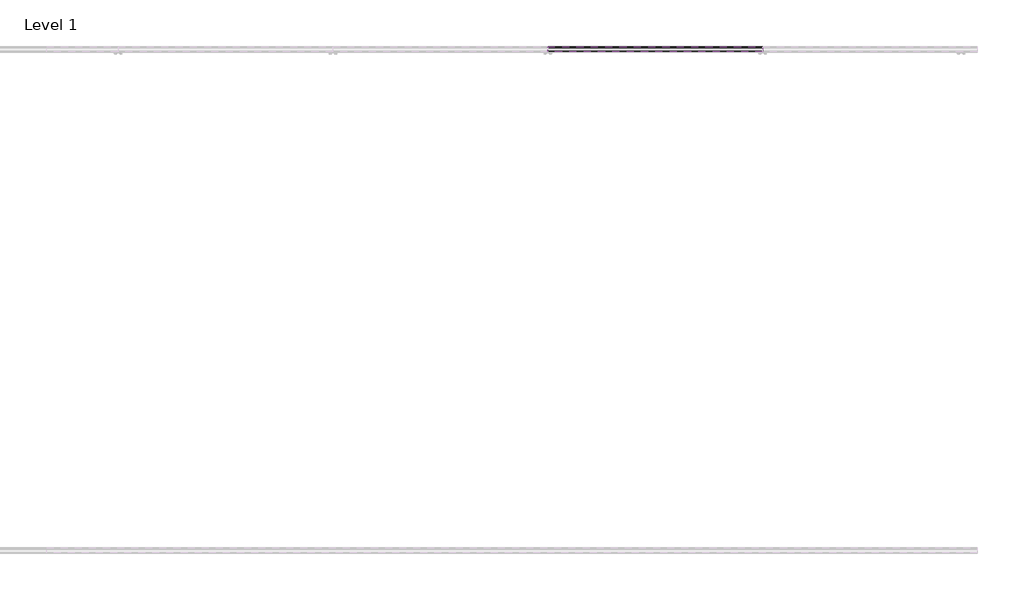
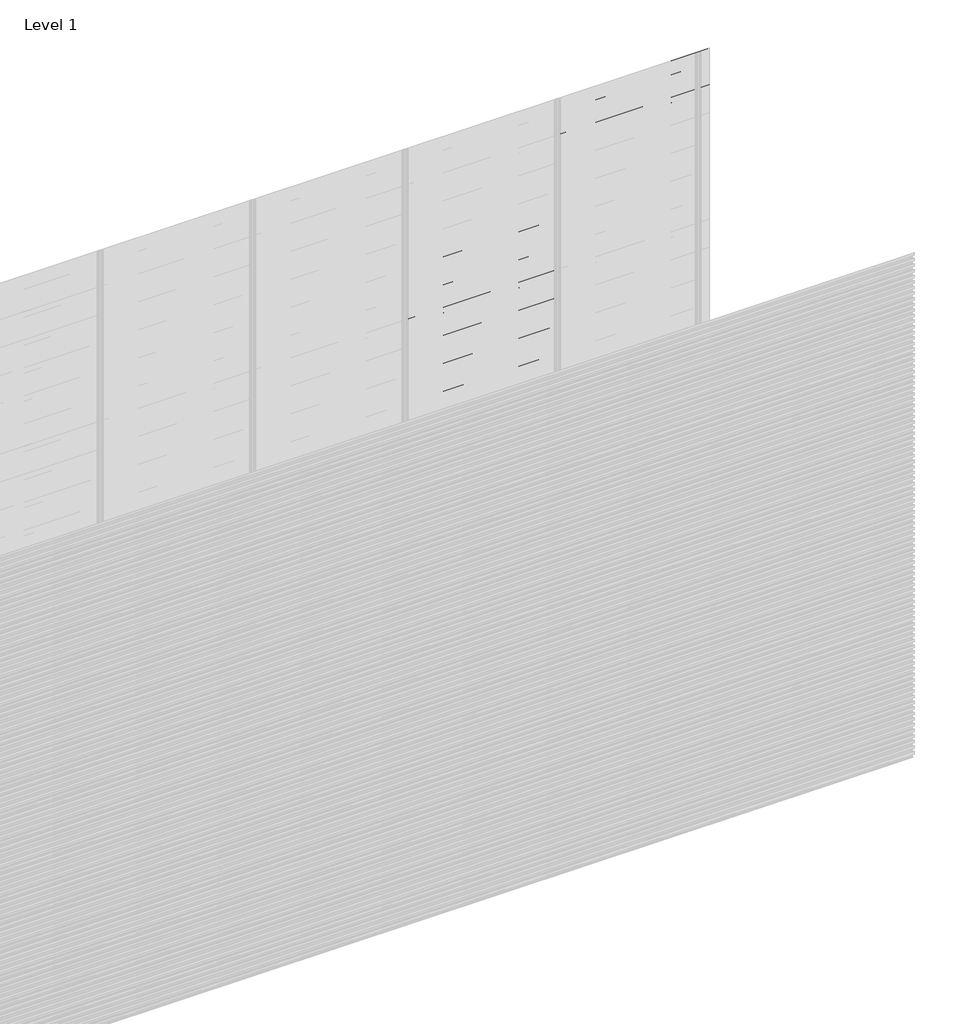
# One storey, part 95 of 96: 82 proxies.
"""IFC4 building model written with IfcOpenShell, lengths in millimetres."""

from ifc_helpers import new_model, si_unit, frame, origin, place, context, project, spatial, polyline, outline, extrude, element, save

model = new_model("IFC4")

# Units and contexts
model_context = context("Model", 3, world=origin())
ifc_project = project(units=[si_unit("LENGTHUNIT", "METRE", prefix="MILLI")], contexts=[model_context])

# Site, building, storey
site = spatial("IfcSite", under=ifc_project)
building = spatial("IfcBuilding", under=site)
storey = spatial("IfcBuildingStorey", under=building, Name="Level 1", Elevation=0.0)

# Proxies
placement = place(None, origin())
element("IfcBuildingElementProxy", 1, Name="Wall Sweeps", at=placement, inside=storey, context=model_context, shape_type="SweptSolid", body=[
    extrude(outline(polyline([(22.4, 2372.3655033), (22.4, 2358.0779188), (17.5885035, 2355.3), (17.5885035, 2356.5701706), (21.15, 2358.6264016), (21.15, 2371.6437382), (2.0, 2382.7000799), (2.0, 2397.6), (3.25, 2397.6), (3.25, 2383.4217609), (22.4, 2372.3655033)])), frame((4285.7142857, 0.0, 0.0), z_axis=(1.0, 0.0, 0.0), x_axis=(0.0, 1.0, 0.0)), (0.0, 0.0, 1.0), 857.1428571),
])
element("IfcBuildingElementProxy", 2, Name="Wall Sweeps", at=placement, inside=storey, context=model_context, shape_type="SweptSolid", body=[
    extrude(outline(polyline([(22.4, 2339.0655033), (22.4, 2324.7779188), (17.5885035, 2322.0), (17.5885035, 2323.2701706), (21.15, 2325.3264016), (21.15, 2338.3437382), (2.0, 2349.4000799), (2.0, 2364.3), (3.25, 2364.3), (3.25, 2350.1217609), (22.4, 2339.0655033)])), frame((4285.7142857, 0.0, 0.0), z_axis=(1.0, 0.0, 0.0), x_axis=(0.0, 1.0, 0.0)), (0.0, 0.0, 1.0), 857.1428571),
])
element("IfcBuildingElementProxy", 3, Name="Wall Sweeps", at=placement, inside=storey, context=model_context, shape_type="SweptSolid", body=[
    extrude(outline(polyline([(22.4, 2305.7655033), (22.4, 2291.4779188), (17.5885035, 2288.7), (17.5885035, 2289.9701706), (21.15, 2292.0264016), (21.15, 2305.0437382), (2.0, 2316.1000799), (2.0, 2331.0), (3.25, 2331.0), (3.25, 2316.8217609), (22.4, 2305.7655033)])), frame((4285.7142857, 0.0, 0.0), z_axis=(1.0, 0.0, 0.0), x_axis=(0.0, 1.0, 0.0)), (0.0, 0.0, 1.0), 857.1428571),
])
element("IfcBuildingElementProxy", 4, Name="Wall Sweeps", at=placement, inside=storey, context=model_context, shape_type="SweptSolid", body=[
    extrude(outline(polyline([(22.4, 2272.4655033), (22.4, 2258.1779188), (17.5885035, 2255.4), (17.5885035, 2256.6701706), (21.15, 2258.7264016), (21.15, 2271.7437382), (2.0, 2282.8000799), (2.0, 2297.7), (3.25, 2297.7), (3.25, 2283.5217609), (22.4, 2272.4655033)])), frame((4285.7142857, 0.0, 0.0), z_axis=(1.0, 0.0, 0.0), x_axis=(0.0, 1.0, 0.0)), (0.0, 0.0, 1.0), 857.1428571),
])
element("IfcBuildingElementProxy", 5, Name="Wall Sweeps", at=placement, inside=storey, context=model_context, shape_type="SweptSolid", body=[
    extrude(outline(polyline([(22.4, 2239.1655033), (22.4, 2224.8779188), (17.5885035, 2222.1), (17.5885035, 2223.3701706), (21.15, 2225.4264016), (21.15, 2238.4437382), (2.0, 2249.5000799), (2.0, 2264.4), (3.25, 2264.4), (3.25, 2250.2217609), (22.4, 2239.1655033)])), frame((4285.7142857, 0.0, 0.0), z_axis=(1.0, 0.0, 0.0), x_axis=(0.0, 1.0, 0.0)), (0.0, 0.0, 1.0), 857.1428571),
])
element("IfcBuildingElementProxy", 6, Name="Wall Sweeps", at=placement, inside=storey, context=model_context, shape_type="SweptSolid", body=[
    extrude(outline(polyline([(22.4, 2205.8655033), (22.4, 2191.5779188), (17.5885035, 2188.8), (17.5885035, 2190.0701706), (21.15, 2192.1264016), (21.15, 2205.1437382), (2.0, 2216.2000799), (2.0, 2231.1), (3.25, 2231.1), (3.25, 2216.9217609), (22.4, 2205.8655033)])), frame((4285.7142857, 0.0, 0.0), z_axis=(1.0, 0.0, 0.0), x_axis=(0.0, 1.0, 0.0)), (0.0, 0.0, 1.0), 857.1428571),
])
element("IfcBuildingElementProxy", 7, Name="Wall Sweeps", at=placement, inside=storey, context=model_context, shape_type="SweptSolid", body=[
    extrude(outline(polyline([(22.4, 2172.5655033), (22.4, 2158.2779188), (17.5885035, 2155.5), (17.5885035, 2156.7701706), (21.15, 2158.8264016), (21.15, 2171.8437382), (2.0, 2182.9000799), (2.0, 2197.8), (3.25, 2197.8), (3.25, 2183.6217609), (22.4, 2172.5655033)])), frame((4285.7142857, 0.0, 0.0), z_axis=(1.0, 0.0, 0.0), x_axis=(0.0, 1.0, 0.0)), (0.0, 0.0, 1.0), 857.1428571),
])
element("IfcBuildingElementProxy", 8, Name="Wall Sweeps", at=placement, inside=storey, context=model_context, shape_type="SweptSolid", body=[
    extrude(outline(polyline([(22.4, 2139.2655033), (22.4, 2124.9779188), (17.5885035, 2122.2), (17.5885035, 2123.4701706), (21.15, 2125.5264016), (21.15, 2138.5437382), (2.0, 2149.6000799), (2.0, 2164.5), (3.25, 2164.5), (3.25, 2150.3217609), (22.4, 2139.2655033)])), frame((4285.7142857, 0.0, 0.0), z_axis=(1.0, 0.0, 0.0), x_axis=(0.0, 1.0, 0.0)), (0.0, 0.0, 1.0), 857.1428571),
])
element("IfcBuildingElementProxy", 9, Name="Wall Sweeps", at=placement, inside=storey, context=model_context, shape_type="SweptSolid", body=[
    extrude(outline(polyline([(22.4, 2105.9655033), (22.4, 2091.6779188), (17.5885035, 2088.9), (17.5885035, 2090.1701706), (21.15, 2092.2264016), (21.15, 2105.2437382), (2.0, 2116.3000799), (2.0, 2131.2), (3.25, 2131.2), (3.25, 2117.0217609), (22.4, 2105.9655033)])), frame((4285.7142857, 0.0, 0.0), z_axis=(1.0, 0.0, 0.0), x_axis=(0.0, 1.0, 0.0)), (0.0, 0.0, 1.0), 857.1428571),
])
element("IfcBuildingElementProxy", 10, Name="Wall Sweeps", at=placement, inside=storey, context=model_context, shape_type="SweptSolid", body=[
    extrude(outline(polyline([(22.4, 2072.6655033), (22.4, 2058.3779188), (17.5885035, 2055.6), (17.5885035, 2056.8701706), (21.15, 2058.9264016), (21.15, 2071.9437382), (2.0, 2083.0000799), (2.0, 2097.9), (3.25, 2097.9), (3.25, 2083.7217609), (22.4, 2072.6655033)])), frame((4285.7142857, 0.0, 0.0), z_axis=(1.0, 0.0, 0.0), x_axis=(0.0, 1.0, 0.0)), (0.0, 0.0, 1.0), 857.1428571),
])
element("IfcBuildingElementProxy", 11, Name="Wall Sweeps", at=placement, inside=storey, context=model_context, shape_type="SweptSolid", body=[
    extrude(outline(polyline([(22.4, 2039.3655033), (22.4, 2025.0779188), (17.5885035, 2022.3), (17.5885035, 2023.5701706), (21.15, 2025.6264016), (21.15, 2038.6437382), (2.0, 2049.7000799), (2.0, 2064.6), (3.25, 2064.6), (3.25, 2050.4217609), (22.4, 2039.3655033)])), frame((4285.7142857, 0.0, 0.0), z_axis=(1.0, 0.0, 0.0), x_axis=(0.0, 1.0, 0.0)), (0.0, 0.0, 1.0), 857.1428571),
])
element("IfcBuildingElementProxy", 12, Name="Wall Sweeps", at=placement, inside=storey, context=model_context, shape_type="SweptSolid", body=[
    extrude(outline(polyline([(22.4, 2006.0655033), (22.4, 1991.7779188), (17.5885035, 1989.0), (17.5885035, 1990.2701706), (21.15, 1992.3264016), (21.15, 2005.3437382), (2.0, 2016.4000799), (2.0, 2031.3), (3.25, 2031.3), (3.25, 2017.1217609), (22.4, 2006.0655033)])), frame((4285.7142857, 0.0, 0.0), z_axis=(1.0, 0.0, 0.0), x_axis=(0.0, 1.0, 0.0)), (0.0, 0.0, 1.0), 857.1428571),
])
element("IfcBuildingElementProxy", 13, Name="Wall Sweeps", at=placement, inside=storey, context=model_context, shape_type="SweptSolid", body=[
    extrude(outline(polyline([(22.4, 1972.7655033), (22.4, 1958.4779188), (17.5885035, 1955.7), (17.5885035, 1956.9701706), (21.15, 1959.0264016), (21.15, 1972.0437382), (2.0, 1983.1000799), (2.0, 1998.0), (3.25, 1998.0), (3.25, 1983.8217609), (22.4, 1972.7655033)])), frame((4285.7142857, 0.0, 0.0), z_axis=(1.0, 0.0, 0.0), x_axis=(0.0, 1.0, 0.0)), (0.0, 0.0, 1.0), 857.1428571),
])
element("IfcBuildingElementProxy", 14, Name="Wall Sweeps", at=placement, inside=storey, context=model_context, shape_type="SweptSolid", body=[
    extrude(outline(polyline([(22.4, 1939.4655033), (22.4, 1925.1779188), (17.5885035, 1922.4), (17.5885035, 1923.6701706), (21.15, 1925.7264016), (21.15, 1938.7437382), (2.0, 1949.8000799), (2.0, 1964.7), (3.25, 1964.7), (3.25, 1950.5217609), (22.4, 1939.4655033)])), frame((4285.7142857, 0.0, 0.0), z_axis=(1.0, 0.0, 0.0), x_axis=(0.0, 1.0, 0.0)), (0.0, 0.0, 1.0), 857.1428571),
])
element("IfcBuildingElementProxy", 15, Name="Wall Sweeps", at=placement, inside=storey, context=model_context, shape_type="SweptSolid", body=[
    extrude(outline(polyline([(22.4, 1906.1655033), (22.4, 1891.8779188), (17.5885035, 1889.1), (17.5885035, 1890.3701706), (21.15, 1892.4264016), (21.15, 1905.4437382), (2.0, 1916.5000799), (2.0, 1931.4), (3.25, 1931.4), (3.25, 1917.2217609), (22.4, 1906.1655033)])), frame((4285.7142857, 0.0, 0.0), z_axis=(1.0, 0.0, 0.0), x_axis=(0.0, 1.0, 0.0)), (0.0, 0.0, 1.0), 857.1428571),
])
element("IfcBuildingElementProxy", 16, Name="Wall Sweeps", at=placement, inside=storey, context=model_context, shape_type="SweptSolid", body=[
    extrude(outline(polyline([(22.4, 1872.8655033), (22.4, 1858.5779188), (17.5885035, 1855.8), (17.5885035, 1857.0701706), (21.15, 1859.1264016), (21.15, 1872.1437382), (2.0, 1883.2000799), (2.0, 1898.1), (3.25, 1898.1), (3.25, 1883.9217609), (22.4, 1872.8655033)])), frame((4285.7142857, 0.0, 0.0), z_axis=(1.0, 0.0, 0.0), x_axis=(0.0, 1.0, 0.0)), (0.0, 0.0, 1.0), 857.1428571),
])
element("IfcBuildingElementProxy", 17, Name="Wall Sweeps", at=placement, inside=storey, context=model_context, shape_type="SweptSolid", body=[
    extrude(outline(polyline([(22.4, 1839.5655033), (22.4, 1825.2779188), (17.5885035, 1822.5), (17.5885035, 1823.7701706), (21.15, 1825.8264016), (21.15, 1838.8437382), (2.0, 1849.9000799), (2.0, 1864.8), (3.25, 1864.8), (3.25, 1850.6217609), (22.4, 1839.5655033)])), frame((4285.7142857, 0.0, 0.0), z_axis=(1.0, 0.0, 0.0), x_axis=(0.0, 1.0, 0.0)), (0.0, 0.0, 1.0), 857.1428571),
])
element("IfcBuildingElementProxy", 18, Name="Wall Sweeps", at=placement, inside=storey, context=model_context, shape_type="SweptSolid", body=[
    extrude(outline(polyline([(22.4, 1806.2655033), (22.4, 1791.9779188), (17.5885035, 1789.2), (17.5885035, 1790.4701706), (21.15, 1792.5264016), (21.15, 1805.5437382), (2.0, 1816.6000799), (2.0, 1831.5), (3.25, 1831.5), (3.25, 1817.3217609), (22.4, 1806.2655033)])), frame((4285.7142857, 0.0, 0.0), z_axis=(1.0, 0.0, 0.0), x_axis=(0.0, 1.0, 0.0)), (0.0, 0.0, 1.0), 857.1428571),
])
element("IfcBuildingElementProxy", 19, Name="Wall Sweeps", at=placement, inside=storey, context=model_context, shape_type="SweptSolid", body=[
    extrude(outline(polyline([(22.4, 1772.9655033), (22.4, 1758.6779188), (17.5885035, 1755.9), (17.5885035, 1757.1701706), (21.15, 1759.2264016), (21.15, 1772.2437382), (2.0, 1783.3000799), (2.0, 1798.2), (3.25, 1798.2), (3.25, 1784.0217609), (22.4, 1772.9655033)])), frame((4285.7142857, 0.0, 0.0), z_axis=(1.0, 0.0, 0.0), x_axis=(0.0, 1.0, 0.0)), (0.0, 0.0, 1.0), 857.1428571),
])
element("IfcBuildingElementProxy", 20, Name="Wall Sweeps", at=placement, inside=storey, context=model_context, shape_type="SweptSolid", body=[
    extrude(outline(polyline([(22.4, 1739.6655033), (22.4, 1725.3779188), (17.5885035, 1722.6), (17.5885035, 1723.8701706), (21.15, 1725.9264016), (21.15, 1738.9437382), (2.0, 1750.0000799), (2.0, 1764.9), (3.25, 1764.9), (3.25, 1750.7217609), (22.4, 1739.6655033)])), frame((4285.7142857, 0.0, 0.0), z_axis=(1.0, 0.0, 0.0), x_axis=(0.0, 1.0, 0.0)), (0.0, 0.0, 1.0), 857.1428571),
])
element("IfcBuildingElementProxy", 21, Name="Wall Sweeps", at=placement, inside=storey, context=model_context, shape_type="SweptSolid", body=[
    extrude(outline(polyline([(22.4, 1706.3655033), (22.4, 1692.0779188), (17.5885035, 1689.3), (17.5885035, 1690.5701706), (21.15, 1692.6264016), (21.15, 1705.6437382), (2.0, 1716.7000799), (2.0, 1731.6), (3.25, 1731.6), (3.25, 1717.4217609), (22.4, 1706.3655033)])), frame((4285.7142857, 0.0, 0.0), z_axis=(1.0, 0.0, 0.0), x_axis=(0.0, 1.0, 0.0)), (0.0, 0.0, 1.0), 857.1428571),
])
element("IfcBuildingElementProxy", 22, Name="Wall Sweeps", at=placement, inside=storey, context=model_context, shape_type="SweptSolid", body=[
    extrude(outline(polyline([(22.4, 1673.0655033), (22.4, 1658.7779188), (17.5885035, 1656.0), (17.5885035, 1657.2701706), (21.15, 1659.3264016), (21.15, 1672.3437382), (2.0, 1683.4000799), (2.0, 1698.3), (3.25, 1698.3), (3.25, 1684.1217609), (22.4, 1673.0655033)])), frame((4285.7142857, 0.0, 0.0), z_axis=(1.0, 0.0, 0.0), x_axis=(0.0, 1.0, 0.0)), (0.0, 0.0, 1.0), 857.1428571),
])
element("IfcBuildingElementProxy", 23, Name="Wall Sweeps", at=placement, inside=storey, context=model_context, shape_type="SweptSolid", body=[
    extrude(outline(polyline([(22.4, 1639.7655033), (22.4, 1625.4779188), (17.5885035, 1622.7), (17.5885035, 1623.9701706), (21.15, 1626.0264016), (21.15, 1639.0437382), (2.0, 1650.1000799), (2.0, 1665.0), (3.25, 1665.0), (3.25, 1650.8217609), (22.4, 1639.7655033)])), frame((4285.7142857, 0.0, 0.0), z_axis=(1.0, 0.0, 0.0), x_axis=(0.0, 1.0, 0.0)), (0.0, 0.0, 1.0), 857.1428571),
])
element("IfcBuildingElementProxy", 24, Name="Wall Sweeps", at=placement, inside=storey, context=model_context, shape_type="SweptSolid", body=[
    extrude(outline(polyline([(22.4, 1606.4655033), (22.4, 1592.1779188), (17.5885035, 1589.4), (17.5885035, 1590.6701706), (21.15, 1592.7264016), (21.15, 1605.7437382), (2.0, 1616.8000799), (2.0, 1631.7), (3.25, 1631.7), (3.25, 1617.5217609), (22.4, 1606.4655033)])), frame((4285.7142857, 0.0, 0.0), z_axis=(1.0, 0.0, 0.0), x_axis=(0.0, 1.0, 0.0)), (0.0, 0.0, 1.0), 857.1428571),
])
element("IfcBuildingElementProxy", 25, Name="Wall Sweeps", at=placement, inside=storey, context=model_context, shape_type="SweptSolid", body=[
    extrude(outline(polyline([(22.4, 1573.1655033), (22.4, 1558.8779188), (17.5885035, 1556.1), (17.5885035, 1557.3701706), (21.15, 1559.4264016), (21.15, 1572.4437382), (2.0, 1583.5000799), (2.0, 1598.4), (3.25, 1598.4), (3.25, 1584.2217609), (22.4, 1573.1655033)])), frame((4285.7142857, 0.0, 0.0), z_axis=(1.0, 0.0, 0.0), x_axis=(0.0, 1.0, 0.0)), (0.0, 0.0, 1.0), 857.1428571),
])
element("IfcBuildingElementProxy", 26, Name="Wall Sweeps", at=placement, inside=storey, context=model_context, shape_type="SweptSolid", body=[
    extrude(outline(polyline([(22.4, 1539.8655033), (22.4, 1525.5779188), (17.5885035, 1522.8), (17.5885035, 1524.0701706), (21.15, 1526.1264016), (21.15, 1539.1437382), (2.0, 1550.2000799), (2.0, 1565.1), (3.25, 1565.1), (3.25, 1550.9217609), (22.4, 1539.8655033)])), frame((4285.7142857, 0.0, 0.0), z_axis=(1.0, 0.0, 0.0), x_axis=(0.0, 1.0, 0.0)), (0.0, 0.0, 1.0), 857.1428571),
])
element("IfcBuildingElementProxy", 27, Name="Wall Sweeps", at=placement, inside=storey, context=model_context, shape_type="SweptSolid", body=[
    extrude(outline(polyline([(22.4, 1506.5655033), (22.4, 1492.2779188), (17.5885035, 1489.5), (17.5885035, 1490.7701706), (21.15, 1492.8264016), (21.15, 1505.8437382), (2.0, 1516.9000799), (2.0, 1531.8), (3.25, 1531.8), (3.25, 1517.6217609), (22.4, 1506.5655033)])), frame((4285.7142857, 0.0, 0.0), z_axis=(1.0, 0.0, 0.0), x_axis=(0.0, 1.0, 0.0)), (0.0, 0.0, 1.0), 857.1428571),
])
element("IfcBuildingElementProxy", 28, Name="Wall Sweeps", at=placement, inside=storey, context=model_context, shape_type="SweptSolid", body=[
    extrude(outline(polyline([(22.4, 1473.2655033), (22.4, 1458.9779188), (17.5885035, 1456.2), (17.5885035, 1457.4701706), (21.15, 1459.5264016), (21.15, 1472.5437382), (2.0, 1483.6000799), (2.0, 1498.5), (3.25, 1498.5), (3.25, 1484.3217609), (22.4, 1473.2655033)])), frame((4285.7142857, 0.0, 0.0), z_axis=(1.0, 0.0, 0.0), x_axis=(0.0, 1.0, 0.0)), (0.0, 0.0, 1.0), 857.1428571),
])
element("IfcBuildingElementProxy", 29, Name="Wall Sweeps", at=placement, inside=storey, context=model_context, shape_type="SweptSolid", body=[
    extrude(outline(polyline([(22.4, 1439.9655033), (22.4, 1425.6779188), (17.5885035, 1422.9), (17.5885035, 1424.1701706), (21.15, 1426.2264016), (21.15, 1439.2437382), (2.0, 1450.3000799), (2.0, 1465.2), (3.25, 1465.2), (3.25, 1451.0217609), (22.4, 1439.9655033)])), frame((4285.7142857, 0.0, 0.0), z_axis=(1.0, 0.0, 0.0), x_axis=(0.0, 1.0, 0.0)), (0.0, 0.0, 1.0), 857.1428571),
])
element("IfcBuildingElementProxy", 30, Name="Wall Sweeps", at=placement, inside=storey, context=model_context, shape_type="SweptSolid", body=[
    extrude(outline(polyline([(22.4, 1406.6655033), (22.4, 1392.3779188), (17.5885035, 1389.6), (17.5885035, 1390.8701706), (21.15, 1392.9264016), (21.15, 1405.9437382), (2.0, 1417.0000799), (2.0, 1431.9), (3.25, 1431.9), (3.25, 1417.7217609), (22.4, 1406.6655033)])), frame((4285.7142857, 0.0, 0.0), z_axis=(1.0, 0.0, 0.0), x_axis=(0.0, 1.0, 0.0)), (0.0, 0.0, 1.0), 857.1428571),
])
element("IfcBuildingElementProxy", 31, Name="Wall Sweeps", at=placement, inside=storey, context=model_context, shape_type="SweptSolid", body=[
    extrude(outline(polyline([(22.4, 1373.3655033), (22.4, 1359.0779188), (17.5885035, 1356.3), (17.5885035, 1357.5701706), (21.15, 1359.6264016), (21.15, 1372.6437382), (2.0, 1383.7000799), (2.0, 1398.6), (3.25, 1398.6), (3.25, 1384.4217609), (22.4, 1373.3655033)])), frame((4285.7142857, 0.0, 0.0), z_axis=(1.0, 0.0, 0.0), x_axis=(0.0, 1.0, 0.0)), (0.0, 0.0, 1.0), 857.1428571),
])
element("IfcBuildingElementProxy", 32, Name="Wall Sweeps", at=placement, inside=storey, context=model_context, shape_type="SweptSolid", body=[
    extrude(outline(polyline([(22.4, 1340.0655033), (22.4, 1325.7779188), (17.5885035, 1323.0), (17.5885035, 1324.2701706), (21.15, 1326.3264016), (21.15, 1339.3437382), (2.0, 1350.4000799), (2.0, 1365.3), (3.25, 1365.3), (3.25, 1351.1217609), (22.4, 1340.0655033)])), frame((4285.7142857, 0.0, 0.0), z_axis=(1.0, 0.0, 0.0), x_axis=(0.0, 1.0, 0.0)), (0.0, 0.0, 1.0), 857.1428571),
])
element("IfcBuildingElementProxy", 33, Name="Wall Sweeps", at=placement, inside=storey, context=model_context, shape_type="SweptSolid", body=[
    extrude(outline(polyline([(22.4, 1306.7655033), (22.4, 1292.4779188), (17.5885035, 1289.7), (17.5885035, 1290.9701706), (21.15, 1293.0264016), (21.15, 1306.0437382), (2.0, 1317.1000799), (2.0, 1332.0), (3.25, 1332.0), (3.25, 1317.8217609), (22.4, 1306.7655033)])), frame((4285.7142857, 0.0, 0.0), z_axis=(1.0, 0.0, 0.0), x_axis=(0.0, 1.0, 0.0)), (0.0, 0.0, 1.0), 857.1428571),
])
element("IfcBuildingElementProxy", 34, Name="Wall Sweeps", at=placement, inside=storey, context=model_context, shape_type="SweptSolid", body=[
    extrude(outline(polyline([(22.4, 1273.4655033), (22.4, 1259.1779188), (17.5885035, 1256.4), (17.5885035, 1257.6701706), (21.15, 1259.7264016), (21.15, 1272.7437382), (2.0, 1283.8000799), (2.0, 1298.7), (3.25, 1298.7), (3.25, 1284.5217609), (22.4, 1273.4655033)])), frame((4285.7142857, 0.0, 0.0), z_axis=(1.0, 0.0, 0.0), x_axis=(0.0, 1.0, 0.0)), (0.0, 0.0, 1.0), 857.1428571),
])
element("IfcBuildingElementProxy", 35, Name="Wall Sweeps", at=placement, inside=storey, context=model_context, shape_type="SweptSolid", body=[
    extrude(outline(polyline([(22.4, 1240.1655033), (22.4, 1225.8779188), (17.5885035, 1223.1), (17.5885035, 1224.3701706), (21.15, 1226.4264016), (21.15, 1239.4437382), (2.0, 1250.5000799), (2.0, 1265.4), (3.25, 1265.4), (3.25, 1251.2217609), (22.4, 1240.1655033)])), frame((4285.7142857, 0.0, 0.0), z_axis=(1.0, 0.0, 0.0), x_axis=(0.0, 1.0, 0.0)), (0.0, 0.0, 1.0), 857.1428571),
])
element("IfcBuildingElementProxy", 36, Name="Wall Sweeps", at=placement, inside=storey, context=model_context, shape_type="SweptSolid", body=[
    extrude(outline(polyline([(22.4, 1206.8655033), (22.4, 1192.5779188), (17.5885035, 1189.8), (17.5885035, 1191.0701706), (21.15, 1193.1264016), (21.15, 1206.1437382), (2.0, 1217.2000799), (2.0, 1232.1), (3.25, 1232.1), (3.25, 1217.9217609), (22.4, 1206.8655033)])), frame((4285.7142857, 0.0, 0.0), z_axis=(1.0, 0.0, 0.0), x_axis=(0.0, 1.0, 0.0)), (0.0, 0.0, 1.0), 857.1428571),
])
element("IfcBuildingElementProxy", 37, Name="Wall Sweeps", at=placement, inside=storey, context=model_context, shape_type="SweptSolid", body=[
    extrude(outline(polyline([(22.4, 1173.5655033), (22.4, 1159.2779188), (17.5885035, 1156.5), (17.5885035, 1157.7701706), (21.15, 1159.8264016), (21.15, 1172.8437382), (2.0, 1183.9000799), (2.0, 1198.8), (3.25, 1198.8), (3.25, 1184.6217609), (22.4, 1173.5655033)])), frame((4285.7142857, 0.0, 0.0), z_axis=(1.0, 0.0, 0.0), x_axis=(0.0, 1.0, 0.0)), (0.0, 0.0, 1.0), 857.1428571),
])
element("IfcBuildingElementProxy", 38, Name="Wall Sweeps", at=placement, inside=storey, context=model_context, shape_type="SweptSolid", body=[
    extrude(outline(polyline([(22.4, 1140.2655033), (22.4, 1125.9779188), (17.5885035, 1123.2), (17.5885035, 1124.4701706), (21.15, 1126.5264016), (21.15, 1139.5437382), (2.0, 1150.6000799), (2.0, 1165.5), (3.25, 1165.5), (3.25, 1151.3217609), (22.4, 1140.2655033)])), frame((4285.7142857, 0.0, 0.0), z_axis=(1.0, 0.0, 0.0), x_axis=(0.0, 1.0, 0.0)), (0.0, 0.0, 1.0), 857.1428571),
])
element("IfcBuildingElementProxy", 39, Name="Wall Sweeps", at=placement, inside=storey, context=model_context, shape_type="SweptSolid", body=[
    extrude(outline(polyline([(22.4, 1106.9655033), (22.4, 1092.6779188), (17.5885035, 1089.9), (17.5885035, 1091.1701706), (21.15, 1093.2264016), (21.15, 1106.2437382), (2.0, 1117.3000799), (2.0, 1132.2), (3.25, 1132.2), (3.25, 1118.0217609), (22.4, 1106.9655033)])), frame((4285.7142857, 0.0, 0.0), z_axis=(1.0, 0.0, 0.0), x_axis=(0.0, 1.0, 0.0)), (0.0, 0.0, 1.0), 857.1428571),
])
element("IfcBuildingElementProxy", 40, Name="Wall Sweeps", at=placement, inside=storey, context=model_context, shape_type="SweptSolid", body=[
    extrude(outline(polyline([(22.4, 1073.6655033), (22.4, 1059.3779188), (17.5885035, 1056.6), (17.5885035, 1057.8701706), (21.15, 1059.9264016), (21.15, 1072.9437382), (2.0, 1084.0000799), (2.0, 1098.9), (3.25, 1098.9), (3.25, 1084.7217609), (22.4, 1073.6655033)])), frame((4285.7142857, 0.0, 0.0), z_axis=(1.0, 0.0, 0.0), x_axis=(0.0, 1.0, 0.0)), (0.0, 0.0, 1.0), 857.1428571),
])
element("IfcBuildingElementProxy", 41, Name="Wall Sweeps", at=placement, inside=storey, context=model_context, shape_type="SweptSolid", body=[
    extrude(outline(polyline([(22.4, 1040.3655033), (22.4, 1026.0779188), (17.5885035, 1023.3), (17.5885035, 1024.5701706), (21.15, 1026.6264016), (21.15, 1039.6437382), (2.0, 1050.7000799), (2.0, 1065.6), (3.25, 1065.6), (3.25, 1051.4217609), (22.4, 1040.3655033)])), frame((4285.7142857, 0.0, 0.0), z_axis=(1.0, 0.0, 0.0), x_axis=(0.0, 1.0, 0.0)), (0.0, 0.0, 1.0), 857.1428571),
])
element("IfcBuildingElementProxy", 42, Name="Wall Sweeps", at=placement, inside=storey, context=model_context, shape_type="SweptSolid", body=[
    extrude(outline(polyline([(22.4, 1007.0655033), (22.4, 992.7779188), (17.5885035, 990.0), (17.5885035, 991.2701706), (21.15, 993.3264016), (21.15, 1006.3437382), (2.0, 1017.4000799), (2.0, 1032.3), (3.25, 1032.3), (3.25, 1018.1217609), (22.4, 1007.0655033)])), frame((4285.7142857, 0.0, 0.0), z_axis=(1.0, 0.0, 0.0), x_axis=(0.0, 1.0, 0.0)), (0.0, 0.0, 1.0), 857.1428571),
])
element("IfcBuildingElementProxy", 43, Name="Wall Sweeps", at=placement, inside=storey, context=model_context, shape_type="SweptSolid", body=[
    extrude(outline(polyline([(22.4, 973.7655033), (22.4, 959.4779188), (17.5885035, 956.7), (17.5885035, 957.9701706), (21.15, 960.0264016), (21.15, 973.0437382), (2.0, 984.1000799), (2.0, 999.0), (3.25, 999.0), (3.25, 984.8217609), (22.4, 973.7655033)])), frame((4285.7142857, 0.0, 0.0), z_axis=(1.0, 0.0, 0.0), x_axis=(0.0, 1.0, 0.0)), (0.0, 0.0, 1.0), 857.1428571),
])
element("IfcBuildingElementProxy", 44, Name="Wall Sweeps", at=placement, inside=storey, context=model_context, shape_type="SweptSolid", body=[
    extrude(outline(polyline([(22.4, 940.4655033), (22.4, 926.1779188), (17.5885035, 923.4), (17.5885035, 924.6701706), (21.15, 926.7264016), (21.15, 939.7437382), (2.0, 950.8000799), (2.0, 965.7), (3.25, 965.7), (3.25, 951.5217609), (22.4, 940.4655033)])), frame((4285.7142857, 0.0, 0.0), z_axis=(1.0, 0.0, 0.0), x_axis=(0.0, 1.0, 0.0)), (0.0, 0.0, 1.0), 857.1428571),
])
element("IfcBuildingElementProxy", 45, Name="Wall Sweeps", at=placement, inside=storey, context=model_context, shape_type="SweptSolid", body=[
    extrude(outline(polyline([(22.4, 907.1655033), (22.4, 892.8779188), (17.5885035, 890.1), (17.5885035, 891.3701706), (21.15, 893.4264016), (21.15, 906.4437382), (2.0, 917.5000799), (2.0, 932.4), (3.25, 932.4), (3.25, 918.2217609), (22.4, 907.1655033)])), frame((4285.7142857, 0.0, 0.0), z_axis=(1.0, 0.0, 0.0), x_axis=(0.0, 1.0, 0.0)), (0.0, 0.0, 1.0), 857.1428571),
])
element("IfcBuildingElementProxy", 46, Name="Wall Sweeps", at=placement, inside=storey, context=model_context, shape_type="SweptSolid", body=[
    extrude(outline(polyline([(22.4, 873.8655033), (22.4, 859.5779188), (17.5885035, 856.8), (17.5885035, 858.0701706), (21.15, 860.1264016), (21.15, 873.1437382), (2.0, 884.2000799), (2.0, 899.1), (3.25, 899.1), (3.25, 884.9217609), (22.4, 873.8655033)])), frame((4285.7142857, 0.0, 0.0), z_axis=(1.0, 0.0, 0.0), x_axis=(0.0, 1.0, 0.0)), (0.0, 0.0, 1.0), 857.1428571),
])
element("IfcBuildingElementProxy", 47, Name="Wall Sweeps", at=placement, inside=storey, context=model_context, shape_type="SweptSolid", body=[
    extrude(outline(polyline([(22.4, 840.5655033), (22.4, 826.2779188), (17.5885035, 823.5), (17.5885035, 824.7701706), (21.15, 826.8264016), (21.15, 839.8437382), (2.0, 850.9000799), (2.0, 865.8), (3.25, 865.8), (3.25, 851.6217609), (22.4, 840.5655033)])), frame((4285.7142857, 0.0, 0.0), z_axis=(1.0, 0.0, 0.0), x_axis=(0.0, 1.0, 0.0)), (0.0, 0.0, 1.0), 857.1428571),
])
element("IfcBuildingElementProxy", 48, Name="Wall Sweeps", at=placement, inside=storey, context=model_context, shape_type="SweptSolid", body=[
    extrude(outline(polyline([(22.4, 807.2655033), (22.4, 792.9779188), (17.5885035, 790.2), (17.5885035, 791.4701706), (21.15, 793.5264016), (21.15, 806.5437382), (2.0, 817.6000799), (2.0, 832.5), (3.25, 832.5), (3.25, 818.3217609), (22.4, 807.2655033)])), frame((4285.7142857, 0.0, 0.0), z_axis=(1.0, 0.0, 0.0), x_axis=(0.0, 1.0, 0.0)), (0.0, 0.0, 1.0), 857.1428571),
])
element("IfcBuildingElementProxy", 49, Name="Wall Sweeps", at=placement, inside=storey, context=model_context, shape_type="SweptSolid", body=[
    extrude(outline(polyline([(22.4, 773.9655033), (22.4, 759.6779188), (17.5885035, 756.9), (17.5885035, 758.1701706), (21.15, 760.2264016), (21.15, 773.2437382), (2.0, 784.3000799), (2.0, 799.2), (3.25, 799.2), (3.25, 785.0217609), (22.4, 773.9655033)])), frame((4285.7142857, 0.0, 0.0), z_axis=(1.0, 0.0, 0.0), x_axis=(0.0, 1.0, 0.0)), (0.0, 0.0, 1.0), 857.1428571),
])
element("IfcBuildingElementProxy", 50, Name="Wall Sweeps", at=placement, inside=storey, context=model_context, shape_type="SweptSolid", body=[
    extrude(outline(polyline([(22.4, 740.6655033), (22.4, 726.3779188), (17.5885035, 723.6), (17.5885035, 724.8701706), (21.15, 726.9264016), (21.15, 739.9437382), (2.0, 751.0000799), (2.0, 765.9), (3.25, 765.9), (3.25, 751.7217609), (22.4, 740.6655033)])), frame((4285.7142857, 0.0, 0.0), z_axis=(1.0, 0.0, 0.0), x_axis=(0.0, 1.0, 0.0)), (0.0, 0.0, 1.0), 857.1428571),
])
element("IfcBuildingElementProxy", 51, Name="Wall Sweeps", at=placement, inside=storey, context=model_context, shape_type="SweptSolid", body=[
    extrude(outline(polyline([(22.4, 707.3655033), (22.4, 693.0779188), (17.5885035, 690.3), (17.5885035, 691.5701706), (21.15, 693.6264016), (21.15, 706.6437382), (2.0, 717.7000799), (2.0, 732.6), (3.25, 732.6), (3.25, 718.4217609), (22.4, 707.3655033)])), frame((4285.7142857, 0.0, 0.0), z_axis=(1.0, 0.0, 0.0), x_axis=(0.0, 1.0, 0.0)), (0.0, 0.0, 1.0), 857.1428571),
])
element("IfcBuildingElementProxy", 52, Name="Wall Sweeps", at=placement, inside=storey, context=model_context, shape_type="SweptSolid", body=[
    extrude(outline(polyline([(22.4, 674.0655033), (22.4, 659.7779188), (17.5885035, 657.0), (17.5885035, 658.2701706), (21.15, 660.3264016), (21.15, 673.3437382), (2.0, 684.4000799), (2.0, 699.3), (3.25, 699.3), (3.25, 685.1217609), (22.4, 674.0655033)])), frame((4285.7142857, 0.0, 0.0), z_axis=(1.0, 0.0, 0.0), x_axis=(0.0, 1.0, 0.0)), (0.0, 0.0, 1.0), 857.1428571),
])
element("IfcBuildingElementProxy", 53, Name="Wall Sweeps", at=placement, inside=storey, context=model_context, shape_type="SweptSolid", body=[
    extrude(outline(polyline([(22.4, 640.7655033), (22.4, 626.4779188), (17.5885035, 623.7), (17.5885035, 624.9701706), (21.15, 627.0264016), (21.15, 640.0437382), (2.0, 651.1000799), (2.0, 666.0), (3.25, 666.0), (3.25, 651.8217609), (22.4, 640.7655033)])), frame((4285.7142857, 0.0, 0.0), z_axis=(1.0, 0.0, 0.0), x_axis=(0.0, 1.0, 0.0)), (0.0, 0.0, 1.0), 857.1428571),
])
element("IfcBuildingElementProxy", 54, Name="Wall Sweeps", at=placement, inside=storey, context=model_context, shape_type="SweptSolid", body=[
    extrude(outline(polyline([(22.4, 607.4655033), (22.4, 593.1779188), (17.5885035, 590.4), (17.5885035, 591.6701706), (21.15, 593.7264016), (21.15, 606.7437382), (2.0, 617.8000799), (2.0, 632.7), (3.25, 632.7), (3.25, 618.5217609), (22.4, 607.4655033)])), frame((4285.7142857, 0.0, 0.0), z_axis=(1.0, 0.0, 0.0), x_axis=(0.0, 1.0, 0.0)), (0.0, 0.0, 1.0), 857.1428571),
])
element("IfcBuildingElementProxy", 55, Name="Wall Sweeps", at=placement, inside=storey, context=model_context, shape_type="SweptSolid", body=[
    extrude(outline(polyline([(22.4, 574.1655033), (22.4, 559.8779188), (17.5885035, 557.1), (17.5885035, 558.3701706), (21.15, 560.4264016), (21.15, 573.4437382), (2.0, 584.5000799), (2.0, 599.4), (3.25, 599.4), (3.25, 585.2217609), (22.4, 574.1655033)])), frame((4285.7142857, 0.0, 0.0), z_axis=(1.0, 0.0, 0.0), x_axis=(0.0, 1.0, 0.0)), (0.0, 0.0, 1.0), 857.1428571),
])
element("IfcBuildingElementProxy", 56, Name="Wall Sweeps", at=placement, inside=storey, context=model_context, shape_type="SweptSolid", body=[
    extrude(outline(polyline([(22.4, 540.8655033), (22.4, 526.5779188), (17.5885035, 523.8), (17.5885035, 525.0701706), (21.15, 527.1264016), (21.15, 540.1437382), (2.0, 551.2000799), (2.0, 566.1), (3.25, 566.1), (3.25, 551.9217609), (22.4, 540.8655033)])), frame((4285.7142857, 0.0, 0.0), z_axis=(1.0, 0.0, 0.0), x_axis=(0.0, 1.0, 0.0)), (0.0, 0.0, 1.0), 857.1428571),
])
element("IfcBuildingElementProxy", 57, Name="Wall Sweeps", at=placement, inside=storey, context=model_context, shape_type="SweptSolid", body=[
    extrude(outline(polyline([(22.4, 507.5655033), (22.4, 493.2779188), (17.5885035, 490.5), (17.5885035, 491.7701706), (21.15, 493.8264016), (21.15, 506.8437382), (2.0, 517.9000799), (2.0, 532.8), (3.25, 532.8), (3.25, 518.6217609), (22.4, 507.5655033)])), frame((4285.7142857, 0.0, 0.0), z_axis=(1.0, 0.0, 0.0), x_axis=(0.0, 1.0, 0.0)), (0.0, 0.0, 1.0), 857.1428571),
])
element("IfcBuildingElementProxy", 58, Name="Wall Sweeps", at=placement, inside=storey, context=model_context, shape_type="SweptSolid", body=[
    extrude(outline(polyline([(22.4, 474.2655033), (22.4, 459.9779188), (17.5885035, 457.2), (17.5885035, 458.4701706), (21.15, 460.5264016), (21.15, 473.5437382), (2.0, 484.6000799), (2.0, 499.5), (3.25, 499.5), (3.25, 485.3217609), (22.4, 474.2655033)])), frame((4285.7142857, 0.0, 0.0), z_axis=(1.0, 0.0, 0.0), x_axis=(0.0, 1.0, 0.0)), (0.0, 0.0, 1.0), 857.1428571),
])
element("IfcBuildingElementProxy", 59, Name="Wall Sweeps", at=placement, inside=storey, context=model_context, shape_type="SweptSolid", body=[
    extrude(outline(polyline([(22.4, 440.9655033), (22.4, 426.6779188), (17.5885035, 423.9), (17.5885035, 425.1701706), (21.15, 427.2264016), (21.15, 440.2437382), (2.0, 451.3000799), (2.0, 466.2), (3.25, 466.2), (3.25, 452.0217609), (22.4, 440.9655033)])), frame((4285.7142857, 0.0, 0.0), z_axis=(1.0, 0.0, 0.0), x_axis=(0.0, 1.0, 0.0)), (0.0, 0.0, 1.0), 857.1428571),
])
element("IfcBuildingElementProxy", 60, Name="Wall Sweeps", at=placement, inside=storey, context=model_context, shape_type="SweptSolid", body=[
    extrude(outline(polyline([(22.4, 407.6655033), (22.4, 393.3779188), (17.5885035, 390.6), (17.5885035, 391.8701706), (21.15, 393.9264016), (21.15, 406.9437382), (2.0, 418.0000799), (2.0, 432.9), (3.25, 432.9), (3.25, 418.7217609), (22.4, 407.6655033)])), frame((4285.7142857, 0.0, 0.0), z_axis=(1.0, 0.0, 0.0), x_axis=(0.0, 1.0, 0.0)), (0.0, 0.0, 1.0), 857.1428571),
])
element("IfcBuildingElementProxy", 61, Name="Wall Sweeps", at=placement, inside=storey, context=model_context, shape_type="SweptSolid", body=[
    extrude(outline(polyline([(22.4, 374.3655033), (22.4, 360.0779188), (17.5885035, 357.3), (17.5885035, 358.5701706), (21.15, 360.6264016), (21.15, 373.6437382), (2.0, 384.7000799), (2.0, 399.6), (3.25, 399.6), (3.25, 385.4217609), (22.4, 374.3655033)])), frame((4285.7142857, 0.0, 0.0), z_axis=(1.0, 0.0, 0.0), x_axis=(0.0, 1.0, 0.0)), (0.0, 0.0, 1.0), 857.1428571),
])
element("IfcBuildingElementProxy", 62, Name="Wall Sweeps", at=placement, inside=storey, context=model_context, shape_type="SweptSolid", body=[
    extrude(outline(polyline([(22.4, 341.0655033), (22.4, 326.7779188), (17.5885035, 324.0), (17.5885035, 325.2701706), (21.15, 327.3264016), (21.15, 340.3437382), (2.0, 351.4000799), (2.0, 366.3), (3.25, 366.3), (3.25, 352.1217609), (22.4, 341.0655033)])), frame((4285.7142857, 0.0, 0.0), z_axis=(1.0, 0.0, 0.0), x_axis=(0.0, 1.0, 0.0)), (0.0, 0.0, 1.0), 857.1428571),
])
element("IfcBuildingElementProxy", 63, Name="Wall Sweeps", at=placement, inside=storey, context=model_context, shape_type="SweptSolid", body=[
    extrude(outline(polyline([(22.4, 307.7655033), (22.4, 293.4779188), (17.5885035, 290.7), (17.5885035, 291.9701706), (21.15, 294.0264016), (21.15, 307.0437382), (2.0, 318.1000799), (2.0, 333.0), (3.25, 333.0), (3.25, 318.8217609), (22.4, 307.7655033)])), frame((4285.7142857, 0.0, 0.0), z_axis=(1.0, 0.0, 0.0), x_axis=(0.0, 1.0, 0.0)), (0.0, 0.0, 1.0), 857.1428571),
])
element("IfcBuildingElementProxy", 64, Name="Wall Sweeps", at=placement, inside=storey, context=model_context, shape_type="SweptSolid", body=[
    extrude(outline(polyline([(22.4, 274.4655033), (22.4, 260.1779188), (17.5885035, 257.4), (17.5885035, 258.6701706), (21.15, 260.7264016), (21.15, 273.7437382), (2.0, 284.8000799), (2.0, 299.7), (3.25, 299.7), (3.25, 285.5217609), (22.4, 274.4655033)])), frame((4285.7142857, 0.0, 0.0), z_axis=(1.0, 0.0, 0.0), x_axis=(0.0, 1.0, 0.0)), (0.0, 0.0, 1.0), 857.1428571),
])
element("IfcBuildingElementProxy", 65, Name="Wall Sweeps", at=placement, inside=storey, context=model_context, shape_type="SweptSolid", body=[
    extrude(outline(polyline([(22.4, 241.1655033), (22.4, 226.8779188), (17.5885035, 224.1), (17.5885035, 225.3701706), (21.15, 227.4264016), (21.15, 240.4437382), (2.0, 251.5000799), (2.0, 266.4), (3.25, 266.4), (3.25, 252.2217609), (22.4, 241.1655033)])), frame((4285.7142857, 0.0, 0.0), z_axis=(1.0, 0.0, 0.0), x_axis=(0.0, 1.0, 0.0)), (0.0, 0.0, 1.0), 857.1428571),
])
element("IfcBuildingElementProxy", 66, Name="Wall Sweeps", at=placement, inside=storey, context=model_context, shape_type="SweptSolid", body=[
    extrude(outline(polyline([(22.4, 207.8655033), (22.4, 193.5779188), (17.5885035, 190.8), (17.5885035, 192.0701706), (21.15, 194.1264016), (21.15, 207.1437382), (2.0, 218.2000799), (2.0, 233.1), (3.25, 233.1), (3.25, 218.9217609), (22.4, 207.8655033)])), frame((4285.7142857, 0.0, 0.0), z_axis=(1.0, 0.0, 0.0), x_axis=(0.0, 1.0, 0.0)), (0.0, 0.0, 1.0), 857.1428571),
])
element("IfcBuildingElementProxy", 67, Name="Wall Sweeps", at=placement, inside=storey, context=model_context, shape_type="SweptSolid", body=[
    extrude(outline(polyline([(22.4, 174.5655033), (22.4, 160.2779188), (17.5885035, 157.5), (17.5885035, 158.7701706), (21.15, 160.8264016), (21.15, 173.8437382), (2.0, 184.9000799), (2.0, 199.8), (3.25, 199.8), (3.25, 185.6217609), (22.4, 174.5655033)])), frame((4285.7142857, 0.0, 0.0), z_axis=(1.0, 0.0, 0.0), x_axis=(0.0, 1.0, 0.0)), (0.0, 0.0, 1.0), 857.1428571),
])
element("IfcBuildingElementProxy", 68, Name="Wall Sweeps", at=placement, inside=storey, context=model_context, shape_type="SweptSolid", body=[
    extrude(outline(polyline([(22.4, 141.2655033), (22.4, 126.9779188), (17.5885035, 124.2), (17.5885035, 125.4701706), (21.15, 127.5264016), (21.15, 140.5437382), (2.0, 151.6000799), (2.0, 166.5), (3.25, 166.5), (3.25, 152.3217609), (22.4, 141.2655033)])), frame((4285.7142857, 0.0, 0.0), z_axis=(1.0, 0.0, 0.0), x_axis=(0.0, 1.0, 0.0)), (0.0, 0.0, 1.0), 857.1428571),
])
element("IfcBuildingElementProxy", 69, Name="Wall Sweeps", at=placement, inside=storey, context=model_context, shape_type="SweptSolid", body=[
    extrude(outline(polyline([(22.4, 107.9655033), (22.4, 93.6779188), (17.5885035, 90.9), (17.5885035, 92.1701706), (21.15, 94.2264016), (21.15, 107.2437382), (2.0, 118.3000799), (2.0, 133.2), (3.25, 133.2), (3.25, 119.0217609), (22.4, 107.9655033)])), frame((4285.7142857, 0.0, 0.0), z_axis=(1.0, 0.0, 0.0), x_axis=(0.0, 1.0, 0.0)), (0.0, 0.0, 1.0), 857.1428571),
])
element("IfcBuildingElementProxy", 70, Name="Wall Sweeps", at=placement, inside=storey, context=model_context, shape_type="SweptSolid", body=[
    extrude(outline(polyline([(22.4, 74.6655033), (22.4, 60.3779188), (17.5885035, 57.6), (17.5885035, 58.8701706), (21.15, 60.9264016), (21.15, 73.9437382), (2.0, 85.0000799), (2.0, 99.9), (3.25, 99.9), (3.25, 85.7217609), (22.4, 74.6655033)])), frame((4285.7142857, 0.0, 0.0), z_axis=(1.0, 0.0, 0.0), x_axis=(0.0, 1.0, 0.0)), (0.0, 0.0, 1.0), 857.1428571),
])
element("IfcBuildingElementProxy", 71, Name="Wall Sweeps", at=placement, inside=storey, context=model_context, shape_type="SweptSolid", body=[
    extrude(outline(polyline([(22.4, 41.3655033), (22.4, 27.0779188), (17.5885035, 24.3), (17.5885035, 25.5701706), (21.15, 27.6264016), (21.15, 40.6437382), (2.0, 51.7000799), (2.0, 66.6), (3.25, 66.6), (3.25, 52.4217609), (22.4, 41.3655033)])), frame((4285.7142857, 0.0, 0.0), z_axis=(1.0, 0.0, 0.0), x_axis=(0.0, 1.0, 0.0)), (0.0, 0.0, 1.0), 857.1428571),
])
element("IfcBuildingElementProxy", 72, Name="Wall Sweeps", at=placement, inside=storey, context=model_context, shape_type="SweptSolid", body=[
    extrude(outline(polyline([(22.4, 8.0655033), (22.4, -6.2220812), (17.5885035, -9.0), (17.5885035, -7.7298294), (21.15, -5.6735984), (21.15, 7.3437382), (2.0, 18.4000799), (2.0, 33.3), (3.25, 33.3), (3.25, 19.1217609), (22.4, 8.0655033)])), frame((4285.7142857, 0.0, 0.0), z_axis=(1.0, 0.0, 0.0), x_axis=(0.0, 1.0, 0.0)), (0.0, 0.0, 1.0), 857.1428571),
])
element("IfcBuildingElementProxy", 73, Name="Wall Sweeps", at=placement, inside=storey, context=model_context, shape_type="SweptSolid", body=[
    extrude(outline(polyline([(22.4, 2971.7655033), (22.4, 2957.4779188), (17.5885035, 2954.7), (17.5885035, 2955.9701706), (21.15, 2958.0264016), (21.15, 2971.0437382), (2.0, 2982.1000799), (2.0, 2997.0), (3.25, 2997.0), (3.25, 2982.8217609), (22.4, 2971.7655033)])), frame((5142.8571429, 0.0, 0.0), z_axis=(1.0, 0.0, 0.0), x_axis=(0.0, 1.0, 0.0)), (0.0, 0.0, 1.0), 857.1428571),
])
element("IfcBuildingElementProxy", 74, Name="Wall Sweeps", at=placement, inside=storey, context=model_context, shape_type="SweptSolid", body=[
    extrude(outline(polyline([(22.4, 2938.4655033), (22.4, 2924.1779188), (17.5885035, 2921.4), (17.5885035, 2922.6701706), (21.15, 2924.7264016), (21.15, 2937.7437382), (2.0, 2948.8000799), (2.0, 2963.7), (3.25, 2963.7), (3.25, 2949.5217609), (22.4, 2938.4655033)])), frame((5142.8571429, 0.0, 0.0), z_axis=(1.0, 0.0, 0.0), x_axis=(0.0, 1.0, 0.0)), (0.0, 0.0, 1.0), 857.1428571),
])
element("IfcBuildingElementProxy", 75, Name="Wall Sweeps", at=placement, inside=storey, context=model_context, shape_type="SweptSolid", body=[
    extrude(outline(polyline([(22.4, 2905.1655033), (22.4, 2890.8779188), (17.5885035, 2888.1), (17.5885035, 2889.3701706), (21.15, 2891.4264016), (21.15, 2904.4437382), (2.0, 2915.5000799), (2.0, 2930.4), (3.25, 2930.4), (3.25, 2916.2217609), (22.4, 2905.1655033)])), frame((5142.8571429, 0.0, 0.0), z_axis=(1.0, 0.0, 0.0), x_axis=(0.0, 1.0, 0.0)), (0.0, 0.0, 1.0), 857.1428571),
])
element("IfcBuildingElementProxy", 76, Name="Wall Sweeps", at=placement, inside=storey, context=model_context, shape_type="SweptSolid", body=[
    extrude(outline(polyline([(22.4, 2871.8655033), (22.4, 2857.5779188), (17.5885035, 2854.8), (17.5885035, 2856.0701706), (21.15, 2858.1264016), (21.15, 2871.1437382), (2.0, 2882.2000799), (2.0, 2897.1), (3.25, 2897.1), (3.25, 2882.9217609), (22.4, 2871.8655033)])), frame((5142.8571429, 0.0, 0.0), z_axis=(1.0, 0.0, 0.0), x_axis=(0.0, 1.0, 0.0)), (0.0, 0.0, 1.0), 857.1428571),
])
element("IfcBuildingElementProxy", 77, Name="Wall Sweeps", at=placement, inside=storey, context=model_context, shape_type="SweptSolid", body=[
    extrude(outline(polyline([(22.4, 2838.5655033), (22.4, 2824.2779188), (17.5885035, 2821.5), (17.5885035, 2822.7701706), (21.15, 2824.8264016), (21.15, 2837.8437382), (2.0, 2848.9000799), (2.0, 2863.8), (3.25, 2863.8), (3.25, 2849.6217609), (22.4, 2838.5655033)])), frame((5142.8571429, 0.0, 0.0), z_axis=(1.0, 0.0, 0.0), x_axis=(0.0, 1.0, 0.0)), (0.0, 0.0, 1.0), 857.1428571),
])
element("IfcBuildingElementProxy", 78, Name="Wall Sweeps", at=placement, inside=storey, context=model_context, shape_type="SweptSolid", body=[
    extrude(outline(polyline([(22.4, 2805.2655033), (22.4, 2790.9779188), (17.5885035, 2788.2), (17.5885035, 2789.4701706), (21.15, 2791.5264016), (21.15, 2804.5437382), (2.0, 2815.6000799), (2.0, 2830.5), (3.25, 2830.5), (3.25, 2816.3217609), (22.4, 2805.2655033)])), frame((5142.8571429, 0.0, 0.0), z_axis=(1.0, 0.0, 0.0), x_axis=(0.0, 1.0, 0.0)), (0.0, 0.0, 1.0), 857.1428571),
])
element("IfcBuildingElementProxy", 79, Name="Wall Sweeps", at=placement, inside=storey, context=model_context, shape_type="SweptSolid", body=[
    extrude(outline(polyline([(22.4, 2771.9655033), (22.4, 2757.6779188), (17.5885035, 2754.9), (17.5885035, 2756.1701706), (21.15, 2758.2264016), (21.15, 2771.2437382), (2.0, 2782.3000799), (2.0, 2797.2), (3.25, 2797.2), (3.25, 2783.0217609), (22.4, 2771.9655033)])), frame((5142.8571429, 0.0, 0.0), z_axis=(1.0, 0.0, 0.0), x_axis=(0.0, 1.0, 0.0)), (0.0, 0.0, 1.0), 857.1428571),
])
element("IfcBuildingElementProxy", 80, Name="Wall Sweeps", at=placement, inside=storey, context=model_context, shape_type="SweptSolid", body=[
    extrude(outline(polyline([(22.4, 2738.6655033), (22.4, 2724.3779188), (17.5885035, 2721.6), (17.5885035, 2722.8701706), (21.15, 2724.9264016), (21.15, 2737.9437382), (2.0, 2749.0000799), (2.0, 2763.9), (3.25, 2763.9), (3.25, 2749.7217609), (22.4, 2738.6655033)])), frame((5142.8571429, 0.0, 0.0), z_axis=(1.0, 0.0, 0.0), x_axis=(0.0, 1.0, 0.0)), (0.0, 0.0, 1.0), 857.1428571),
])
element("IfcBuildingElementProxy", 81, Name="Wall Sweeps", at=placement, inside=storey, context=model_context, shape_type="SweptSolid", body=[
    extrude(outline(polyline([(22.4, 2705.3655033), (22.4, 2691.0779188), (17.5885035, 2688.3), (17.5885035, 2689.5701706), (21.15, 2691.6264016), (21.15, 2704.6437382), (2.0, 2715.7000799), (2.0, 2730.6), (3.25, 2730.6), (3.25, 2716.4217609), (22.4, 2705.3655033)])), frame((5142.8571429, 0.0, 0.0), z_axis=(1.0, 0.0, 0.0), x_axis=(0.0, 1.0, 0.0)), (0.0, 0.0, 1.0), 857.1428571),
])
element("IfcBuildingElementProxy", 82, Name="Wall Sweeps", at=placement, inside=storey, context=model_context, shape_type="SweptSolid", body=[
    extrude(outline(polyline([(22.4, 2672.0655033), (22.4, 2657.7779188), (17.5885035, 2655.0), (17.5885035, 2656.2701706), (21.15, 2658.3264016), (21.15, 2671.3437382), (2.0, 2682.4000799), (2.0, 2697.3), (3.25, 2697.3), (3.25, 2683.1217609), (22.4, 2672.0655033)])), frame((5142.8571429, 0.0, 0.0), z_axis=(1.0, 0.0, 0.0), x_axis=(0.0, 1.0, 0.0)), (0.0, 0.0, 1.0), 857.1428571),
])

save(model, "model.ifc")
